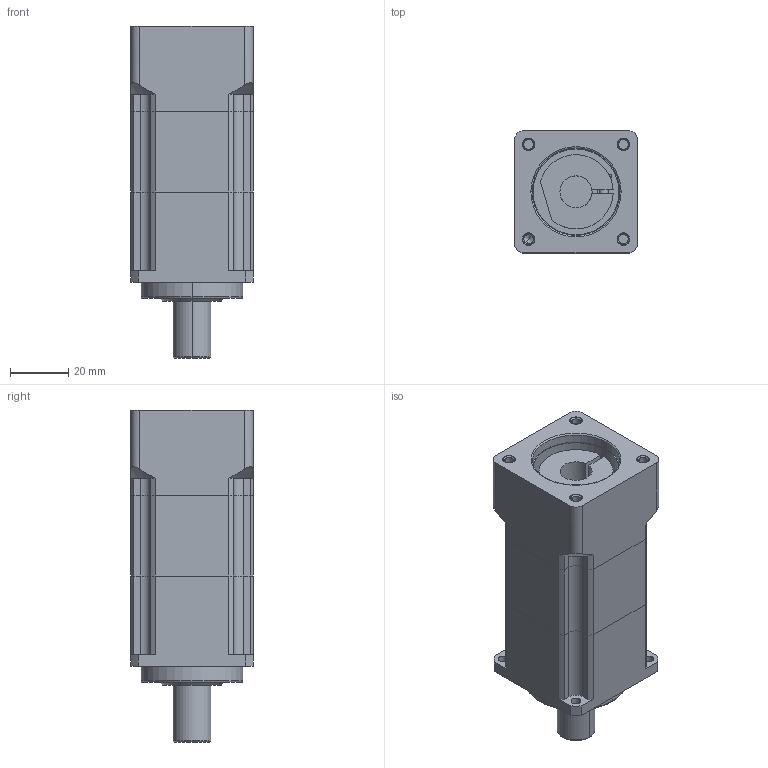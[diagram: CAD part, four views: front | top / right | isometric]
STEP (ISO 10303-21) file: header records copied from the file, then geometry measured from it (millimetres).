
FILE_DESCRIPTION((''),'2;1');
FILE_NAME('AB0422-P4010102_ASM','2005-07-20T',('jacky'),(''),'PRO/ENGINEER BY PARAMETRIC TECHNOLOGY CORPORATION, 2001280','PRO/ENGINEER BY PARAMETRIC TECHNOLOGY CORPORATION, 2001280','');
FILE_SCHEMA(('CONFIG_CONTROL_DESIGN'));
Length unit declared in the file: millimetre
Products named in the file (4): AB0422; AB0422-1; P4010102; AB0422-P4010102_ASM
Assembly tree (3 placements, depth 2):
  AB0422-P4010102_ASM
    AB0422
    AB0422-1
    P4010102
Bounding box: 42 x 42 x 114 mm (x, y, z)
Volume: 135706.1 mm3; surface area: 30717.6 mm2
Topology: 3 solids, 7 shells, 186 faces, 481 edges, 315 vertices
Faces by surface type: cylinder 87, plane 77, cone 16, torus 6
Entity records: 5936 total; most frequent: CARTESIAN_POINT 1080, DIRECTION 1067, ORIENTED_EDGE 942, EDGE_CURVE 479, AXIS2_PLACEMENT_3D 406, VERTEX_POINT 315, VECTOR 255, LINE 255
